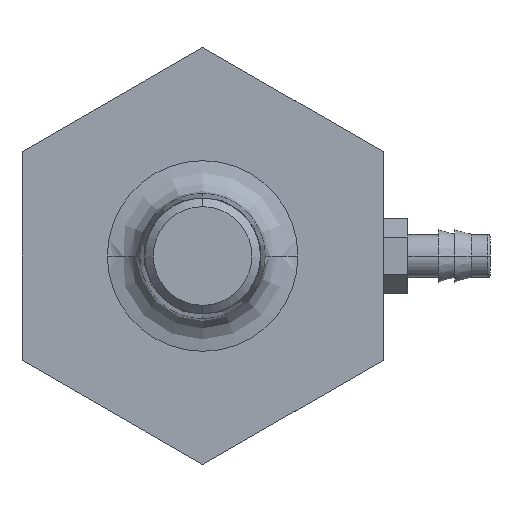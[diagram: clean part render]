
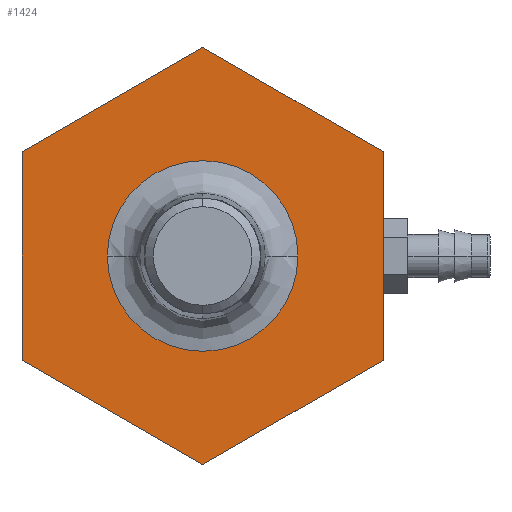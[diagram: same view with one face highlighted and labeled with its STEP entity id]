
A CAD part, left-side view. The second image highlights one B-rep face of the part: STEP entity #1424.
In plain terms, the highlighted planar face has unit normal (-1, 0, 0).
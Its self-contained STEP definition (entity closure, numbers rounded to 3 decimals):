
#1165=CARTESIAN_POINT('',(-3.25,0.363,0.));
#1166=VERTEX_POINT('',#1165);
#1176=CARTESIAN_POINT('',(-3.25,-0.363,0.));
#1177=VERTEX_POINT('',#1176);
#1178=CARTESIAN_POINT('',(-3.25,0.0,0.0));
#1179=DIRECTION('',(-1.0,0.0,0.0));
#1180=DIRECTION('',(0.0,0.0,1.0));
#1181=AXIS2_PLACEMENT_3D('',#1178,#1179,#1180);
#1182=CIRCLE('',#1181,0.363);
#1183=EDGE_CURVE('',#1166,#1177,#1182,.T.);
#1332=CARTESIAN_POINT('',(-3.25,0.0,0.363));
#1333=VERTEX_POINT('',#1332);
#1334=CARTESIAN_POINT('',(-3.25,0.0,0.0));
#1335=DIRECTION('',(-1.0,0.0,0.0));
#1336=DIRECTION('',(0.0,0.0,1.0));
#1337=AXIS2_PLACEMENT_3D('',#1334,#1335,#1336);
#1338=CIRCLE('',#1337,0.363);
#1339=EDGE_CURVE('',#1177,#1333,#1338,.T.);
#1341=CARTESIAN_POINT('',(-3.25,0.0,0.0));
#1342=DIRECTION('',(-1.0,0.0,0.0));
#1343=DIRECTION('',(0.0,0.0,1.0));
#1344=AXIS2_PLACEMENT_3D('',#1341,#1342,#1343);
#1345=CIRCLE('',#1344,0.363);
#1346=EDGE_CURVE('',#1333,#1166,#1345,.T.);
#1364=CARTESIAN_POINT('',(-3.25,0.,0.0));
#1365=DIRECTION('',(-1.0,0.0,0.0));
#1366=DIRECTION('',(0.0,0.0,1.0));
#1367=AXIS2_PLACEMENT_3D('',#1364,#1365,#1366);
#1368=PLANE('',#1367);
#1369=CARTESIAN_POINT('',(-3.25,0.688,0.397));
#1370=VERTEX_POINT('',#1369);
#1371=CARTESIAN_POINT('',(-3.25,0.0,0.794));
#1372=VERTEX_POINT('',#1371);
#1373=CARTESIAN_POINT('',(-3.25,0.688,0.397));
#1374=DIRECTION('',(0.0,-0.866,0.5));
#1375=VECTOR('',#1374,0.794);
#1376=LINE('',#1373,#1375);
#1377=EDGE_CURVE('',#1370,#1372,#1376,.T.);
#1378=ORIENTED_EDGE('',*,*,#1377,.F.);
#1379=CARTESIAN_POINT('',(-3.25,0.688,-0.397));
#1380=VERTEX_POINT('',#1379);
#1381=CARTESIAN_POINT('',(-3.25,0.688,-0.397));
#1382=DIRECTION('',(0.0,0.0,1.0));
#1383=VECTOR('',#1382,0.794);
#1384=LINE('',#1381,#1383);
#1385=EDGE_CURVE('',#1380,#1370,#1384,.T.);
#1386=ORIENTED_EDGE('',*,*,#1385,.F.);
#1387=CARTESIAN_POINT('',(-3.25,0.,-0.794));
#1388=VERTEX_POINT('',#1387);
#1389=CARTESIAN_POINT('',(-3.25,0.,-0.794));
#1390=DIRECTION('',(0.0,0.866,0.5));
#1391=VECTOR('',#1390,0.794);
#1392=LINE('',#1389,#1391);
#1393=EDGE_CURVE('',#1388,#1380,#1392,.T.);
#1394=ORIENTED_EDGE('',*,*,#1393,.F.);
#1395=CARTESIAN_POINT('',(-3.25,-0.688,-0.397));
#1396=VERTEX_POINT('',#1395);
#1397=CARTESIAN_POINT('',(-3.25,-0.688,-0.397));
#1398=DIRECTION('',(0.0,0.866,-0.5));
#1399=VECTOR('',#1398,0.794);
#1400=LINE('',#1397,#1399);
#1401=EDGE_CURVE('',#1396,#1388,#1400,.T.);
#1402=ORIENTED_EDGE('',*,*,#1401,.F.);
#1403=CARTESIAN_POINT('',(-3.25,-0.688,0.397));
#1404=VERTEX_POINT('',#1403);
#1405=CARTESIAN_POINT('',(-3.25,-0.688,0.397));
#1406=DIRECTION('',(0.0,0.0,-1.0));
#1407=VECTOR('',#1406,0.794);
#1408=LINE('',#1405,#1407);
#1409=EDGE_CURVE('',#1404,#1396,#1408,.T.);
#1410=ORIENTED_EDGE('',*,*,#1409,.F.);
#1411=CARTESIAN_POINT('',(-3.25,0.0,0.794));
#1412=DIRECTION('',(0.0,-0.866,-0.5));
#1413=VECTOR('',#1412,0.794);
#1414=LINE('',#1411,#1413);
#1415=EDGE_CURVE('',#1372,#1404,#1414,.T.);
#1416=ORIENTED_EDGE('',*,*,#1415,.F.);
#1417=EDGE_LOOP('',(#1378,#1386,#1394,#1402,#1410,#1416));
#1418=FACE_OUTER_BOUND('',#1417,.T.);
#1419=ORIENTED_EDGE('',*,*,#1346,.F.);
#1420=ORIENTED_EDGE('',*,*,#1339,.F.);
#1421=ORIENTED_EDGE('',*,*,#1183,.F.);
#1422=EDGE_LOOP('',(#1419,#1420,#1421));
#1423=FACE_BOUND('',#1422,.T.);
#1424=ADVANCED_FACE('',(#1418,#1423),#1368,.T.);
